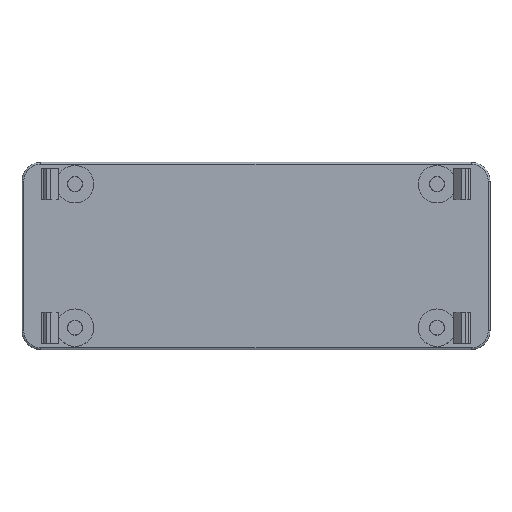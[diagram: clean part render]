
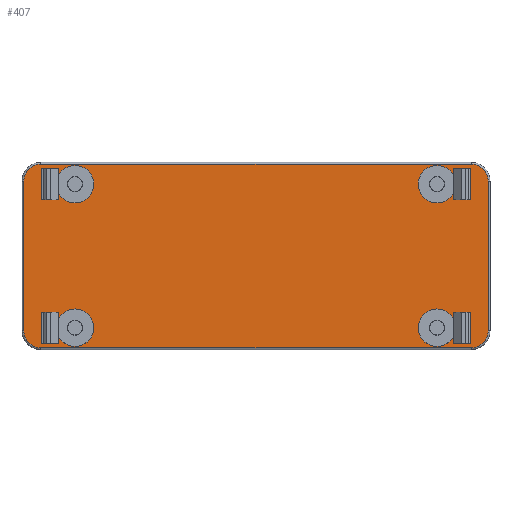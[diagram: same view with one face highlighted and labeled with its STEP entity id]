
A CAD part, top view. The second image highlights one B-rep face of the part: STEP entity #407.
In plain terms, the highlighted planar face has unit normal (0, 0, 1).
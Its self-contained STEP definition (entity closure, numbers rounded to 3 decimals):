
#407=ADVANCED_FACE('',(#686,#687,#688,#689,#690,#691,#692,#693,#694),#616,
 .F.);
#616=PLANE('',#3366);
#686=FACE_BOUND('',#719,.T.);
#687=FACE_BOUND('',#720,.T.);
#688=FACE_BOUND('',#721,.T.);
#689=FACE_BOUND('',#722,.T.);
#690=FACE_BOUND('',#723,.T.);
#691=FACE_BOUND('',#724,.T.);
#692=FACE_BOUND('',#725,.T.);
#693=FACE_BOUND('',#726,.T.);
#694=FACE_BOUND('',#727,.T.);
#719=EDGE_LOOP('',(#1446,#1447,#1448,#1449,#1450,#1451,#1452,#1453));
#720=EDGE_LOOP('',(#1454,#1455,#1456,#1457));
#721=EDGE_LOOP('',(#1458));
#722=EDGE_LOOP('',(#1459));
#723=EDGE_LOOP('',(#1460));
#724=EDGE_LOOP('',(#1461));
#725=EDGE_LOOP('',(#1462,#1463,#1464,#1465));
#726=EDGE_LOOP('',(#1466,#1467,#1468,#1469));
#727=EDGE_LOOP('',(#1470,#1471,#1472,#1473));
#948=LINE('',#4864,#1197);
#949=LINE('',#4868,#1198);
#950=LINE('',#4872,#1199);
#951=LINE('',#4876,#1200);
#952=LINE('',#4877,#1201);
#953=LINE('',#4880,#1202);
#954=LINE('',#4882,#1203);
#955=LINE('',#4884,#1204);
#956=LINE('',#4893,#1205);
#957=LINE('',#4896,#1206);
#958=LINE('',#4898,#1207);
#959=LINE('',#4900,#1208);
#960=LINE('',#4901,#1209);
#961=LINE('',#4904,#1210);
#962=LINE('',#4906,#1211);
#963=LINE('',#4908,#1212);
#964=LINE('',#4909,#1213);
#965=LINE('',#4912,#1214);
#966=LINE('',#4914,#1215);
#967=LINE('',#4916,#1216);
#1197=VECTOR('',#3779,1.);
#1198=VECTOR('',#3782,1.);
#1199=VECTOR('',#3785,1.);
#1200=VECTOR('',#3788,1.);
#1201=VECTOR('',#3789,1.);
#1202=VECTOR('',#3790,1.);
#1203=VECTOR('',#3791,1.);
#1204=VECTOR('',#3792,1.);
#1205=VECTOR('',#3801,1.);
#1206=VECTOR('',#3802,1.);
#1207=VECTOR('',#3803,1.);
#1208=VECTOR('',#3804,1.);
#1209=VECTOR('',#3805,1.);
#1210=VECTOR('',#3806,1.);
#1211=VECTOR('',#3807,1.);
#1212=VECTOR('',#3808,1.);
#1213=VECTOR('',#3809,1.);
#1214=VECTOR('',#3810,1.);
#1215=VECTOR('',#3811,1.);
#1216=VECTOR('',#3812,1.);
#1446=ORIENTED_EDGE('',*,*,#2690,.T.);
#1447=ORIENTED_EDGE('',*,*,#2691,.T.);
#1448=ORIENTED_EDGE('',*,*,#2692,.T.);
#1449=ORIENTED_EDGE('',*,*,#2693,.T.);
#1450=ORIENTED_EDGE('',*,*,#2694,.T.);
#1451=ORIENTED_EDGE('',*,*,#2695,.T.);
#1452=ORIENTED_EDGE('',*,*,#2696,.T.);
#1453=ORIENTED_EDGE('',*,*,#2697,.T.);
#1454=ORIENTED_EDGE('',*,*,#2698,.T.);
#1455=ORIENTED_EDGE('',*,*,#2699,.T.);
#1456=ORIENTED_EDGE('',*,*,#2700,.T.);
#1457=ORIENTED_EDGE('',*,*,#2701,.F.);
#1458=ORIENTED_EDGE('',*,*,#2702,.F.);
#1459=ORIENTED_EDGE('',*,*,#2703,.T.);
#1460=ORIENTED_EDGE('',*,*,#2704,.F.);
#1461=ORIENTED_EDGE('',*,*,#2705,.T.);
#1462=ORIENTED_EDGE('',*,*,#2706,.F.);
#1463=ORIENTED_EDGE('',*,*,#2707,.T.);
#1464=ORIENTED_EDGE('',*,*,#2708,.T.);
#1465=ORIENTED_EDGE('',*,*,#2709,.T.);
#1466=ORIENTED_EDGE('',*,*,#2710,.F.);
#1467=ORIENTED_EDGE('',*,*,#2711,.T.);
#1468=ORIENTED_EDGE('',*,*,#2712,.T.);
#1469=ORIENTED_EDGE('',*,*,#2713,.T.);
#1470=ORIENTED_EDGE('',*,*,#2714,.T.);
#1471=ORIENTED_EDGE('',*,*,#2715,.T.);
#1472=ORIENTED_EDGE('',*,*,#2716,.F.);
#1473=ORIENTED_EDGE('',*,*,#2717,.T.);
#2400=VERTEX_POINT('',#4862);
#2401=VERTEX_POINT('',#4863);
#2402=VERTEX_POINT('',#4865);
#2403=VERTEX_POINT('',#4867);
#2404=VERTEX_POINT('',#4869);
#2405=VERTEX_POINT('',#4871);
#2406=VERTEX_POINT('',#4873);
#2407=VERTEX_POINT('',#4875);
#2408=VERTEX_POINT('',#4878);
#2409=VERTEX_POINT('',#4879);
#2410=VERTEX_POINT('',#4881);
#2411=VERTEX_POINT('',#4883);
#2412=VERTEX_POINT('',#4886);
#2413=VERTEX_POINT('',#4888);
#2414=VERTEX_POINT('',#4890);
#2415=VERTEX_POINT('',#4892);
#2416=VERTEX_POINT('',#4894);
#2417=VERTEX_POINT('',#4895);
#2418=VERTEX_POINT('',#4897);
#2419=VERTEX_POINT('',#4899);
#2420=VERTEX_POINT('',#4902);
#2421=VERTEX_POINT('',#4903);
#2422=VERTEX_POINT('',#4905);
#2423=VERTEX_POINT('',#4907);
#2424=VERTEX_POINT('',#4910);
#2425=VERTEX_POINT('',#4911);
#2426=VERTEX_POINT('',#4913);
#2427=VERTEX_POINT('',#4915);
#2690=EDGE_CURVE('',#2400,#2401,#3167,.T.);
#2691=EDGE_CURVE('',#2401,#2402,#948,.T.);
#2692=EDGE_CURVE('',#2402,#2403,#3168,.T.);
#2693=EDGE_CURVE('',#2403,#2404,#949,.T.);
#2694=EDGE_CURVE('',#2404,#2405,#3169,.T.);
#2695=EDGE_CURVE('',#2405,#2406,#950,.T.);
#2696=EDGE_CURVE('',#2406,#2407,#3170,.T.);
#2697=EDGE_CURVE('',#2407,#2400,#951,.T.);
#2698=EDGE_CURVE('',#2408,#2409,#952,.T.);
#2699=EDGE_CURVE('',#2409,#2410,#953,.T.);
#2700=EDGE_CURVE('',#2410,#2411,#954,.T.);
#2701=EDGE_CURVE('',#2408,#2411,#955,.T.);
#2702=EDGE_CURVE('',#2412,#2412,#3171,.T.);
#2703=EDGE_CURVE('',#2413,#2413,#3172,.T.);
#2704=EDGE_CURVE('',#2414,#2414,#3173,.T.);
#2705=EDGE_CURVE('',#2415,#2415,#3174,.T.);
#2706=EDGE_CURVE('',#2416,#2417,#956,.T.);
#2707=EDGE_CURVE('',#2416,#2418,#957,.T.);
#2708=EDGE_CURVE('',#2418,#2419,#958,.T.);
#2709=EDGE_CURVE('',#2419,#2417,#959,.T.);
#2710=EDGE_CURVE('',#2420,#2421,#960,.T.);
#2711=EDGE_CURVE('',#2420,#2422,#961,.T.);
#2712=EDGE_CURVE('',#2422,#2423,#962,.T.);
#2713=EDGE_CURVE('',#2423,#2421,#963,.T.);
#2714=EDGE_CURVE('',#2424,#2425,#964,.T.);
#2715=EDGE_CURVE('',#2425,#2426,#965,.T.);
#2716=EDGE_CURVE('',#2427,#2426,#966,.T.);
#2717=EDGE_CURVE('',#2427,#2424,#967,.T.);
#3167=CIRCLE('',#3358,2.7);
#3168=CIRCLE('',#3359,2.7);
#3169=CIRCLE('',#3360,2.7);
#3170=CIRCLE('',#3361,2.7);
#3171=CIRCLE('',#3362,3.);
#3172=CIRCLE('',#3363,3.);
#3173=CIRCLE('',#3364,3.);
#3174=CIRCLE('',#3365,3.);
#3358=AXIS2_PLACEMENT_3D('',#4861,#3777,#3778);
#3359=AXIS2_PLACEMENT_3D('',#4866,#3780,#3781);
#3360=AXIS2_PLACEMENT_3D('',#4870,#3783,#3784);
#3361=AXIS2_PLACEMENT_3D('',#4874,#3786,#3787);
#3362=AXIS2_PLACEMENT_3D('',#4885,#3793,#3794);
#3363=AXIS2_PLACEMENT_3D('',#4887,#3795,#3796);
#3364=AXIS2_PLACEMENT_3D('',#4889,#3797,#3798);
#3365=AXIS2_PLACEMENT_3D('',#4891,#3799,#3800);
#3366=AXIS2_PLACEMENT_3D('',#4917,#3813,#3814);
#3777=DIRECTION('',(0.,0.,1.));
#3778=DIRECTION('',(-1.,0.,0.));
#3779=DIRECTION('',(0.,-1.,0.));
#3780=DIRECTION('',(0.,0.,1.));
#3781=DIRECTION('',(-1.,0.,0.));
#3782=DIRECTION('',(1.,0.,0.));
#3783=DIRECTION('',(0.,0.,1.));
#3784=DIRECTION('',(-1.,0.,0.));
#3785=DIRECTION('',(0.,1.,0.));
#3786=DIRECTION('',(0.,0.,1.));
#3787=DIRECTION('',(-1.,0.,0.));
#3788=DIRECTION('',(-1.,0.,0.));
#3789=DIRECTION('',(0.,-1.,0.));
#3790=DIRECTION('',(-1.,0.,0.));
#3791=DIRECTION('',(0.,1.,0.));
#3792=DIRECTION('',(-1.,0.,0.));
#3793=DIRECTION('',(0.,0.,1.));
#3794=DIRECTION('',(1.,0.,0.));
#3795=DIRECTION('',(0.,0.,-1.));
#3796=DIRECTION('',(1.,0.,0.));
#3797=DIRECTION('',(0.,0.,1.));
#3798=DIRECTION('',(-1.,0.,0.));
#3799=DIRECTION('',(0.,0.,-1.));
#3800=DIRECTION('',(1.,0.,0.));
#3801=DIRECTION('',(1.,0.,0.));
#3802=DIRECTION('',(0.,1.,0.));
#3803=DIRECTION('',(1.,0.,0.));
#3804=DIRECTION('',(0.,-1.,0.));
#3805=DIRECTION('',(1.,0.,0.));
#3806=DIRECTION('',(0.,1.,0.));
#3807=DIRECTION('',(1.,0.,0.));
#3808=DIRECTION('',(0.,-1.,0.));
#3809=DIRECTION('',(-1.,0.,0.));
#3810=DIRECTION('',(0.,1.,0.));
#3811=DIRECTION('',(-1.,0.,0.));
#3812=DIRECTION('',(0.,-1.,0.));
#3813=DIRECTION('',(0.,0.,-1.));
#3814=DIRECTION('',(-1.,0.,0.));
#4861=CARTESIAN_POINT('',(-34.5,12.615,-5.725));
#4862=CARTESIAN_POINT('',(-34.5,15.315,-5.725));
#4863=CARTESIAN_POINT('',(-37.2,12.615,-5.725));
#4864=CARTESIAN_POINT('',(-37.2,0.,-5.725));
#4865=CARTESIAN_POINT('',(-37.2,-11.385,-5.725));
#4866=CARTESIAN_POINT('',(-34.5,-11.385,-5.725));
#4867=CARTESIAN_POINT('',(-34.5,-14.085,-5.725));
#4868=CARTESIAN_POINT('',(0.,-14.085,-5.725));
#4869=CARTESIAN_POINT('',(34.5,-14.085,-5.725));
#4870=CARTESIAN_POINT('',(34.5,-11.385,-5.725));
#4871=CARTESIAN_POINT('',(37.2,-11.385,-5.725));
#4872=CARTESIAN_POINT('',(37.2,0.,-5.725));
#4873=CARTESIAN_POINT('',(37.2,12.615,-5.725));
#4874=CARTESIAN_POINT('',(34.5,12.615,-5.725));
#4875=CARTESIAN_POINT('',(34.5,15.315,-5.725));
#4876=CARTESIAN_POINT('',(0.,15.315,-5.725));
#4877=CARTESIAN_POINT('',(-32.4,-13.385,-5.725));
#4878=CARTESIAN_POINT('',(-32.4,-8.385,-5.725));
#4879=CARTESIAN_POINT('',(-32.4,-13.385,-5.725));
#4880=CARTESIAN_POINT('',(-32.7,-13.385,-5.725));
#4881=CARTESIAN_POINT('',(-34.3,-13.385,-5.725));
#4882=CARTESIAN_POINT('',(-34.3,-8.385,-5.725));
#4883=CARTESIAN_POINT('',(-34.3,-8.385,-5.725));
#4884=CARTESIAN_POINT('',(-32.7,-8.385,-5.725));
#4885=CARTESIAN_POINT('',(29.,12.115,-5.725));
#4886=CARTESIAN_POINT('',(32.,12.115,-5.725));
#4887=CARTESIAN_POINT('',(-29.,-10.885,-5.725));
#4888=CARTESIAN_POINT('',(-26.,-10.885,-5.725));
#4889=CARTESIAN_POINT('',(-29.,12.115,-5.725));
#4890=CARTESIAN_POINT('',(-32.,12.115,-5.725));
#4891=CARTESIAN_POINT('',(29.,-10.885,-5.725));
#4892=CARTESIAN_POINT('',(32.,-10.885,-5.725));
#4893=CARTESIAN_POINT('',(32.7,-13.385,-5.725));
#4894=CARTESIAN_POINT('',(32.4,-13.385,-5.725));
#4895=CARTESIAN_POINT('',(34.3,-13.385,-5.725));
#4896=CARTESIAN_POINT('',(32.4,0.,-5.725));
#4897=CARTESIAN_POINT('',(32.4,-8.385,-5.725));
#4898=CARTESIAN_POINT('',(32.7,-8.385,-5.725));
#4899=CARTESIAN_POINT('',(34.3,-8.385,-5.725));
#4900=CARTESIAN_POINT('',(34.3,0.,-5.725));
#4901=CARTESIAN_POINT('',(32.7,9.615,-5.725));
#4902=CARTESIAN_POINT('',(32.4,9.615,-5.725));
#4903=CARTESIAN_POINT('',(34.3,9.615,-5.725));
#4904=CARTESIAN_POINT('',(32.4,0.,-5.725));
#4905=CARTESIAN_POINT('',(32.4,14.615,-5.725));
#4906=CARTESIAN_POINT('',(32.7,14.615,-5.725));
#4907=CARTESIAN_POINT('',(34.3,14.615,-5.725));
#4908=CARTESIAN_POINT('',(34.3,0.,-5.725));
#4909=CARTESIAN_POINT('',(-32.7,9.615,-5.725));
#4910=CARTESIAN_POINT('',(-32.4,9.615,-5.725));
#4911=CARTESIAN_POINT('',(-34.3,9.615,-5.725));
#4912=CARTESIAN_POINT('',(-34.3,0.,-5.725));
#4913=CARTESIAN_POINT('',(-34.3,14.615,-5.725));
#4914=CARTESIAN_POINT('',(-32.7,14.615,-5.725));
#4915=CARTESIAN_POINT('',(-32.4,14.615,-5.725));
#4916=CARTESIAN_POINT('',(-32.4,0.,-5.725));
#4917=CARTESIAN_POINT('',(0.,0.,-5.725));
